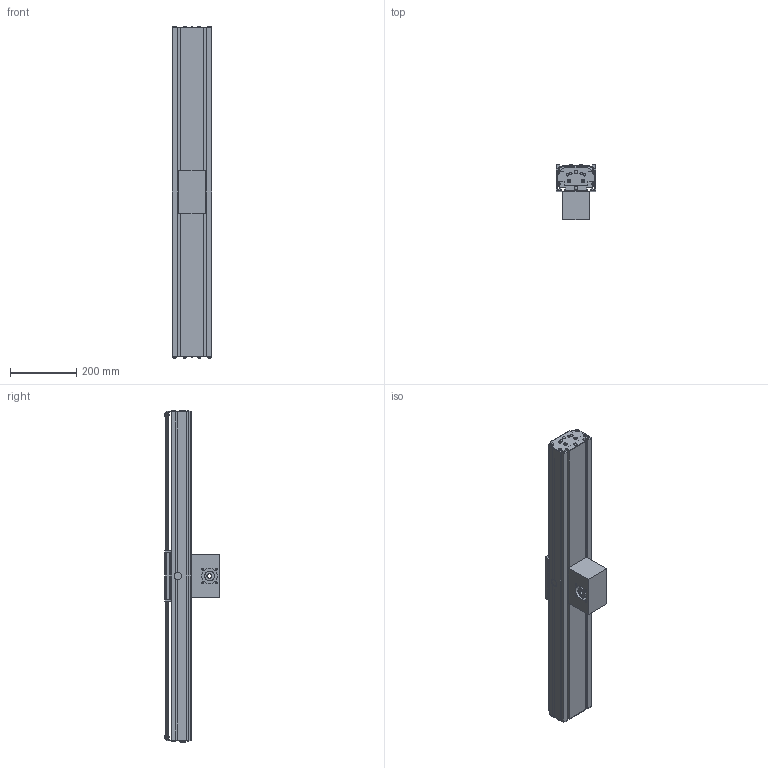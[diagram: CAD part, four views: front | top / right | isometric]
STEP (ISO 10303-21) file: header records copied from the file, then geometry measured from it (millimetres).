
FILE_DESCRIPTION (( 'STEP AP214' ), '1' );
FILE_NAME ('DSZS120P.STEP', '2022-07-25T07:58:59', ( '' ), ( '' ), 'SwSTEP 2.0', 'SolidWorks 2020', '' );
FILE_SCHEMA (( 'AUTOMOTIVE_DESIGN' ));
Length unit declared in the file: millimetre
Products named in the file (5): timing belt reverse unit ^DSZS120P_coupling claw pos.1; end plate^DSZS120P_standard; profile^DSZS120P_standard; carriage^DSZS120P_carriage 0; DSZS120P
Assembly tree (5 placements, depth 2):
  DSZS120P
    profile^DSZS120P_standard
    carriage^DSZS120P_carriage 0
    timing belt reverse unit ^DSZS120P_coupling claw pos.1
    end plate^DSZS120P_standard  x2
Bounding box: 120 x 165.75 x 999.92 mm (x, y, z)
Volume: 3834164.7 mm3; surface area: 1063801.9 mm2
Topology: 12 solids, 12 shells, 740 faces, 1905 edges, 1240 vertices
Faces by surface type: plane 458, cylinder 204, bspline 60, cone 10, sphere 8
Entity records: 23300 total; most frequent: CARTESIAN_POINT 8181, ORIENTED_EDGE 2810, DIRECTION 2567, EDGE_CURVE 1405, VECTOR 971, LINE 971, VERTEX_POINT 924, AXIS2_PLACEMENT_3D 798
